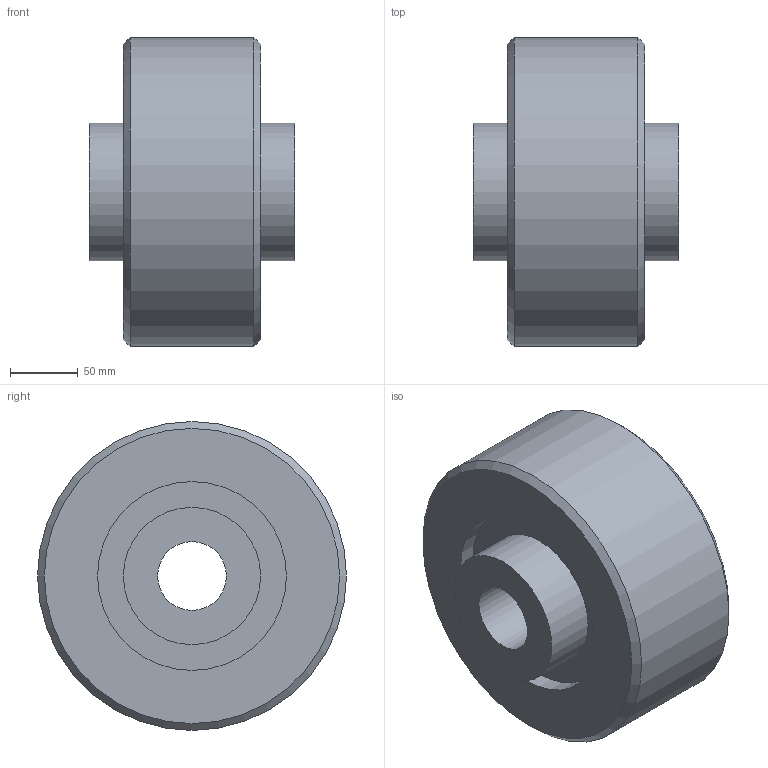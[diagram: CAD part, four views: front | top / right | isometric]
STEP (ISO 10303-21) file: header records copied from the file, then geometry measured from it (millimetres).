
FILE_DESCRIPTION((''),'1');
FILE_NAME('C:/Users/t-inoue/Desktop/9HFD201_HP.stp', '2017-07-12T04:18:17',(''), (''), 'KCM Version 1.1.1442.0', 'Kubotek KeyCreator', '');
FILE_SCHEMA(('AUTOMOTIVE_DESIGN'));
Length unit declared in the file: inch
Bounding box: 152.4 x 228.6 x 228.6 mm (x, y, z)
Surface area: 206448.9 mm2 (no closed solid volume)
Topology: 0 solids, 14 shells, 14 faces, 36 edges, 28 vertices
Faces by surface type: cylinder 6, plane 6, cone 2
Full cylindrical faces by diameter (mm): 50.8 x1, 101.6 x2, 139.7 x2, 228.6 x1
Entity records: 482 total; most frequent: DIRECTION 94, CARTESIAN_POINT 79, ORIENTED_EDGE 44, AXIS2_PLACEMENT_3D 43, EDGE_CURVE 36, VERTEX_POINT 28, CIRCLE 28, EDGE_LOOP 20
